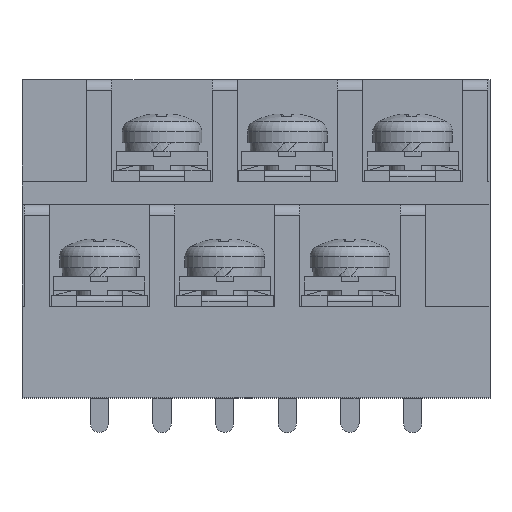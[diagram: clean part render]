
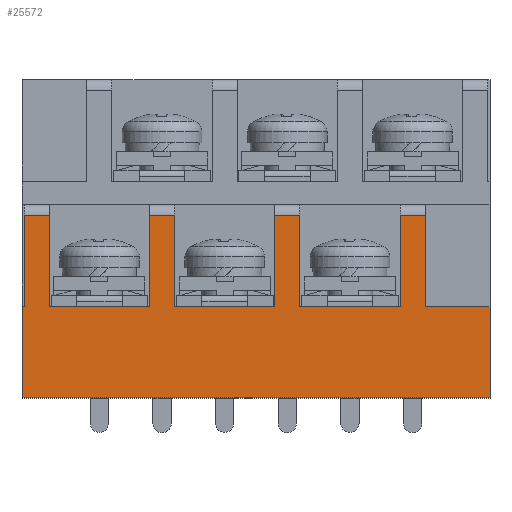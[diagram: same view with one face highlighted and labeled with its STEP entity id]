
A CAD part, top view. The second image highlights one B-rep face of the part: STEP entity #25572.
In plain terms, the highlighted planar face has unit normal (0, 0, 1).
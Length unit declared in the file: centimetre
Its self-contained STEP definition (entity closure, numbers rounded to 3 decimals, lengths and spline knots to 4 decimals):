
#1419=VERTEX_POINT('',#32998);
#1422=VERTEX_POINT('',#33004);
#1424=VERTEX_POINT('',#33010);
#1425=VERTEX_POINT('',#33014);
#1597=VERTEX_POINT('',#33540);
#1599=VERTEX_POINT('',#33544);
#1750=VERTEX_POINT('',#34024);
#1752=VERTEX_POINT('',#34030);
#1753=VERTEX_POINT('',#34034);
#2281=VERTEX_POINT('',#36162);
#2282=VERTEX_POINT('',#36164);
#2304=VERTEX_POINT('',#36226);
#2305=VERTEX_POINT('',#36230);
#2306=VERTEX_POINT('',#36232);
#2307=VERTEX_POINT('',#36234);
#2308=VERTEX_POINT('',#36236);
#2309=VERTEX_POINT('',#36238);
#2310=VERTEX_POINT('',#36241);
#2311=VERTEX_POINT('',#36243);
#2312=VERTEX_POINT('',#36245);
#4034=VECTOR('',#28141,1.);
#4036=VECTOR('',#28147,1.);
#4038=VECTOR('',#28150,1.);
#4223=VECTOR('',#28528,1.);
#4384=VECTOR('',#28877,1.);
#4386=VECTOR('',#28883,1.);
#4388=VECTOR('',#28886,1.);
#4549=VECTOR('',#29232,1.);
#4970=VECTOR('',#29883,1.);
#5002=VECTOR('',#29926,1.);
#5003=VECTOR('',#29928,1.);
#5004=VECTOR('',#29929,1.);
#5005=VECTOR('',#29930,1.);
#5006=VECTOR('',#29931,1.);
#5007=VECTOR('',#29932,1.);
#5008=VECTOR('',#29933,1.);
#5009=VECTOR('',#29934,1.);
#5010=VECTOR('',#29935,1.);
#5011=VECTOR('',#29936,1.);
#5012=VECTOR('',#29937,1.);
#7023=LINE('',#33005,#4034);
#7025=LINE('',#33011,#4036);
#7027=LINE('',#33016,#4038);
#7212=LINE('',#33545,#4223);
#7373=LINE('',#34025,#4384);
#7375=LINE('',#34031,#4386);
#7377=LINE('',#34036,#4388);
#7538=LINE('',#34511,#4549);
#7959=LINE('',#36163,#4970);
#7991=LINE('',#36227,#5002);
#7992=LINE('',#36229,#5003);
#7993=LINE('',#36231,#5004);
#7994=LINE('',#36233,#5005);
#7995=LINE('',#36235,#5006);
#7996=LINE('',#36237,#5007);
#7997=LINE('',#36239,#5008);
#7998=LINE('',#36240,#5009);
#7999=LINE('',#36242,#5010);
#8000=LINE('',#36244,#5011);
#8001=LINE('',#36246,#5012);
#10025=EDGE_CURVE('',#1419,#1422,#7023,.T.);
#10028=EDGE_CURVE('',#1424,#1422,#7025,.T.);
#10030=EDGE_CURVE('',#1425,#1424,#7027,.T.);
#10284=EDGE_CURVE('',#1599,#1597,#7212,.T.);
#10514=EDGE_CURVE('',#1599,#1750,#7373,.T.);
#10517=EDGE_CURVE('',#1752,#1750,#7375,.T.);
#10519=EDGE_CURVE('',#1753,#1752,#7377,.T.);
#10747=EDGE_CURVE('',#1419,#1753,#7538,.T.);
#11311=EDGE_CURVE('',#2282,#2281,#7959,.T.);
#11344=EDGE_CURVE('',#2282,#2304,#7991,.T.);
#11345=EDGE_CURVE('',#2281,#2305,#7992,.T.);
#11346=EDGE_CURVE('',#2305,#2306,#7993,.T.);
#11347=EDGE_CURVE('',#2307,#2306,#7994,.T.);
#11348=EDGE_CURVE('',#2307,#2308,#7995,.T.);
#11349=EDGE_CURVE('',#2309,#2308,#7996,.T.);
#11350=EDGE_CURVE('',#1597,#2309,#7997,.T.);
#11351=EDGE_CURVE('',#2310,#1425,#7998,.T.);
#11352=EDGE_CURVE('',#2310,#2311,#7999,.T.);
#11353=EDGE_CURVE('',#2312,#2311,#8000,.T.);
#11354=EDGE_CURVE('',#2304,#2312,#8001,.T.);
#16617=ORIENTED_EDGE('',*,*,#11345,.T.);
#16618=ORIENTED_EDGE('',*,*,#11346,.T.);
#16619=ORIENTED_EDGE('',*,*,#11347,.F.);
#16620=ORIENTED_EDGE('',*,*,#11348,.T.);
#16621=ORIENTED_EDGE('',*,*,#11349,.F.);
#16622=ORIENTED_EDGE('',*,*,#11350,.F.);
#16623=ORIENTED_EDGE('',*,*,#10284,.F.);
#16624=ORIENTED_EDGE('',*,*,#10514,.T.);
#16625=ORIENTED_EDGE('',*,*,#10517,.F.);
#16626=ORIENTED_EDGE('',*,*,#10519,.F.);
#16627=ORIENTED_EDGE('',*,*,#10747,.F.);
#16628=ORIENTED_EDGE('',*,*,#10025,.T.);
#16629=ORIENTED_EDGE('',*,*,#10028,.F.);
#16630=ORIENTED_EDGE('',*,*,#10030,.F.);
#16631=ORIENTED_EDGE('',*,*,#11351,.F.);
#16632=ORIENTED_EDGE('',*,*,#11352,.T.);
#16633=ORIENTED_EDGE('',*,*,#11353,.F.);
#16634=ORIENTED_EDGE('',*,*,#11354,.F.);
#16635=ORIENTED_EDGE('',*,*,#11344,.F.);
#16636=ORIENTED_EDGE('',*,*,#11311,.T.);
#22357=EDGE_LOOP('',(#16617,#16618,#16619,#16620,#16621,#16622,#16623,#16624,
#16625,#16626,#16627,#16628,#16629,#16630,#16631,#16632,#16633,#16634,#16635,
#16636));
#23995=FACE_BOUND('',#22357,.T.);
#25572=ADVANCED_FACE('',(#23995),#43630,.T.);
#27204=AXIS2_PLACEMENT_3D('',#36228,#29927,$);
#28141=DIRECTION('',(0.,1.,0.));
#28147=DIRECTION('',(1.,0.,0.));
#28150=DIRECTION('',(0.,1.,0.));
#28528=DIRECTION('',(1.,0.,0.));
#28877=DIRECTION('',(0.,1.,0.));
#28883=DIRECTION('',(1.,0.,0.));
#28886=DIRECTION('',(0.,1.,0.));
#29232=DIRECTION('',(1.,0.,0.));
#29883=DIRECTION('',(0.,-1.,0.));
#29926=DIRECTION('',(1.,0.,0.));
#29927=DIRECTION('',(0.,0.,1.));
#29928=DIRECTION('',(1.,0.,0.));
#29929=DIRECTION('',(0.,1.,0.));
#29930=DIRECTION('',(1.,0.,0.));
#29931=DIRECTION('',(0.,1.,0.));
#29932=DIRECTION('',(1.,0.,0.));
#29933=DIRECTION('',(0.,1.,0.));
#29934=DIRECTION('',(1.,0.,0.));
#29935=DIRECTION('',(0.,1.,0.));
#29936=DIRECTION('',(1.,0.,0.));
#29937=DIRECTION('',(0.,1.,0.));
#32998=CARTESIAN_POINT('',(1.34,0.8,2.35));
#33004=CARTESIAN_POINT('',(1.34,1.6,2.35));
#33005=CARTESIAN_POINT('',(1.34,0.,2.35));
#33010=CARTESIAN_POINT('',(1.12,1.6,2.35));
#33011=CARTESIAN_POINT('',(1.12,1.6,2.35));
#33014=CARTESIAN_POINT('',(1.12,0.8,2.35));
#33016=CARTESIAN_POINT('',(1.12,0.,2.35));
#33540=CARTESIAN_POINT('',(3.32,0.8,2.35));
#33544=CARTESIAN_POINT('',(2.44,0.8,2.35));
#33545=CARTESIAN_POINT('',(2.44,0.8,2.35));
#34024=CARTESIAN_POINT('',(2.44,1.6,2.35));
#34025=CARTESIAN_POINT('',(2.44,0.,2.35));
#34030=CARTESIAN_POINT('',(2.22,1.6,2.35));
#34031=CARTESIAN_POINT('',(2.22,1.6,2.35));
#34034=CARTESIAN_POINT('',(2.22,0.8,2.35));
#34036=CARTESIAN_POINT('',(2.22,0.,2.35));
#34511=CARTESIAN_POINT('',(1.34,0.8,2.35));
#36162=CARTESIAN_POINT('',(0.,0.,2.35));
#36163=CARTESIAN_POINT('',(0.,0.8,2.35));
#36164=CARTESIAN_POINT('',(0.,0.8,2.35));
#36226=CARTESIAN_POINT('',(0.02,0.8,2.35));
#36227=CARTESIAN_POINT('',(0.,0.8,2.35));
#36228=CARTESIAN_POINT('',(0.,0.4,2.35));
#36229=CARTESIAN_POINT('',(0.,0.,2.35));
#36230=CARTESIAN_POINT('',(4.11,0.,2.35));
#36231=CARTESIAN_POINT('',(4.11,0.8,2.35));
#36232=CARTESIAN_POINT('',(4.11,0.8,2.35));
#36233=CARTESIAN_POINT('',(3.54,0.8,2.35));
#36234=CARTESIAN_POINT('',(3.54,0.8,2.35));
#36235=CARTESIAN_POINT('',(3.54,0.,2.35));
#36236=CARTESIAN_POINT('',(3.54,1.6,2.35));
#36237=CARTESIAN_POINT('',(3.32,1.6,2.35));
#36238=CARTESIAN_POINT('',(3.32,1.6,2.35));
#36239=CARTESIAN_POINT('',(3.32,0.,2.35));
#36240=CARTESIAN_POINT('',(0.24,0.8,2.35));
#36241=CARTESIAN_POINT('',(0.24,0.8,2.35));
#36242=CARTESIAN_POINT('',(0.24,0.,2.35));
#36243=CARTESIAN_POINT('',(0.24,1.6,2.35));
#36244=CARTESIAN_POINT('',(0.02,1.6,2.35));
#36245=CARTESIAN_POINT('',(0.02,1.6,2.35));
#36246=CARTESIAN_POINT('',(0.02,0.,2.35));
#43630=PLANE('',#27204);
